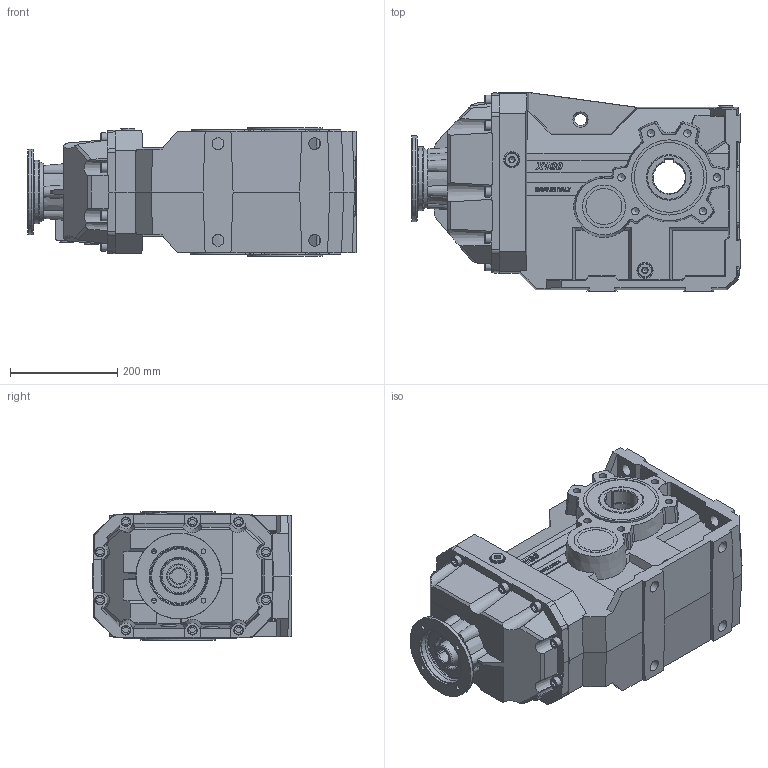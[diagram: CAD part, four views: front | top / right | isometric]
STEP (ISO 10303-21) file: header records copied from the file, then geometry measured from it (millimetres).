
FILE_DESCRIPTION( ( 'Unknown' ), '1' );
FILE_NAME( 'E:/services/configuratordownloads/customers/HYDROMEC/X/download/8C7EDDB7D6EE41E2D94FFD5E5B4192/STEP/8C7EDDB7D6EE41E2D94FFD5E5B4192.3d.stp', 'Unknown', ( 'Unknown' ), ( 'Unknown' ), 'PSStep 10.1', 'Unknown', ' ' );
FILE_SCHEMA( ( 'AUTOMOTIVE_DESIGN { 1 0 10303 214 1 1 1 1 }' ) );
Length unit declared in the file: millimetre
Products named in the file (1): X1008800
Bounding box: 610.9 x 370.4 x 240 mm (x, y, z)
Volume: 31235637.9 mm3; surface area: 1102318.2 mm2
Topology: 1 solids, 33 shells, 1315 faces, 3337 edges, 2204 vertices
Faces by surface type: plane 855, cylinder 225, cone 145, bspline 59, torus 31
Full cylindrical faces by diameter (mm): 4.917 x6, 6.647 x8, 7.6 x8, 8 x8, 8.5 x8, 9 x12, 10.106 x10, 13.835 x12, 15.6 x8, 18 x10, 19.5 x6, 21.5 x6, 22 x8, 26 x6, 27 x6, 30 x6, 44.99 x1, 62 x1, 67 x1, 68 x1, 72 x1, 80 x1, 85 x1, 103 x1, 107 x1, 110 x1, 119 x1, 130 x2, 140 x2, 160 x1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
Entity records: 56895 total; most frequent: CARTESIAN_POINT 16669, DIRECTION 5887, ORIENTED_EDGE 5818, EDGE_CURVE 2909, VERTEX_POINT 2080, AXIS2_PLACEMENT_3D 2007, LINE 1873, VECTOR 1873
